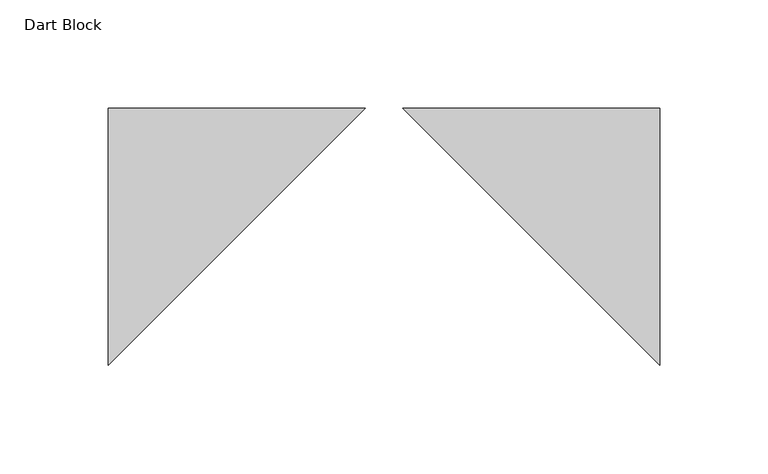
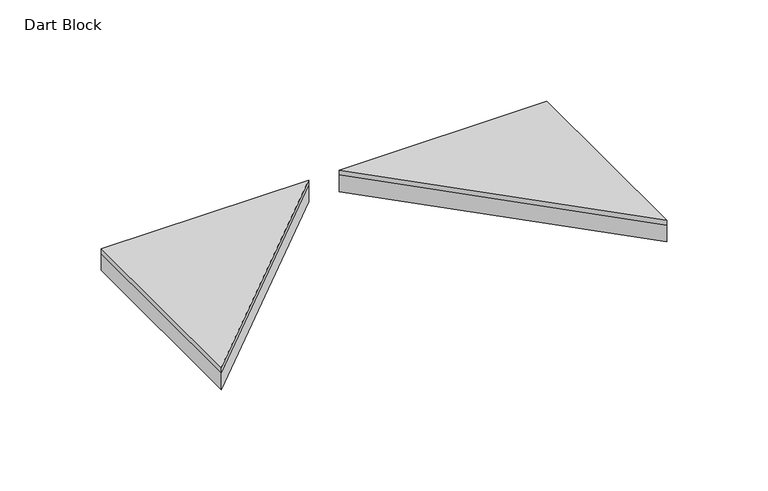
"""IFC4 building model written with IfcOpenShell, lengths in millimetres: proxy geometry, FilzFelt_Dart_Block : Dart Block."""

from ifc_helpers import new_model, si_unit, frame, origin, origin_with_axes, place, context, project, spatial, polyline, outline, extrude, source, transform, mapped, element, save


def dart_block_84291ee9(model_context):
    return source(origin(), model_context, "Body", "SweptSolid", [
        extrude(outline(polyline([(127.0, -72.0916122), (127.0, -190.5), (8.5916122, -72.0916122), (127.0, -72.0916122)])), frame((0.0, 0.0, 10.0210937), z_axis=(0.0, 0.0, 1.0), x_axis=(1.0, 0.0, 0.0)), (0.0, 0.0, 1.0), 2.9765625),
        extrude(outline(polyline([(-8.5916122, -72.0916122), (-127.0, -190.5), (-127.0, -72.0916122), (-8.5916122, -72.0916122)])), frame((0.0, 0.0, 10.0210937), z_axis=(0.0, 0.0, 1.0), x_axis=(1.0, 0.0, 0.0)), (0.0, 0.0, 1.0), 2.9765625),
        extrude(outline(polyline([(127.0, -190.5), (8.5916122, -72.0916122), (127.0, -72.0916122), (127.0, -190.5)])), origin_with_axes(), (0.0, 0.0, 1.0), 10.0210938),
        extrude(outline(polyline([(-8.5916122, -72.0916122), (-127.0, -190.5), (-127.0, -72.0916122), (-8.5916122, -72.0916122)])), origin_with_axes(), (0.0, 0.0, 1.0), 10.0210938),
    ])


if __name__ == "__main__":
    model = new_model("IFC4")
    model_context = context("Model", 3, world=origin())
    ifc_project = project(units=[si_unit("LENGTHUNIT", "METRE", prefix="MILLI")], contexts=[model_context])
    site = spatial("IfcSite", under=ifc_project)
    building = spatial("IfcBuilding", under=site)
    placement = place(None, origin())
    dart_block_shape = dart_block_84291ee9(model_context)
    element("IfcBuildingElementProxy", 1, Name="FilzFelt_Dart_Block : Dart Block", ObjectType="FilzFelt_Dart_Block : Dart Block", at=placement, inside=building, context=model_context, shape_type="MappedRepresentation", body=[
        mapped(dart_block_shape, transform((0.0, 0.0, 0.0), x_axis=(1.0, 0.0, 0.0), y_axis=(0.0, 1.0, 0.0), z_axis=(0.0, 0.0, 1.0))),
    ])
    save(model, "model.ifc")
